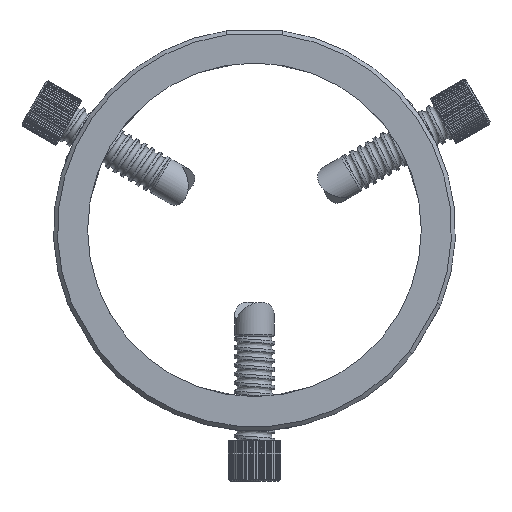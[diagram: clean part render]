
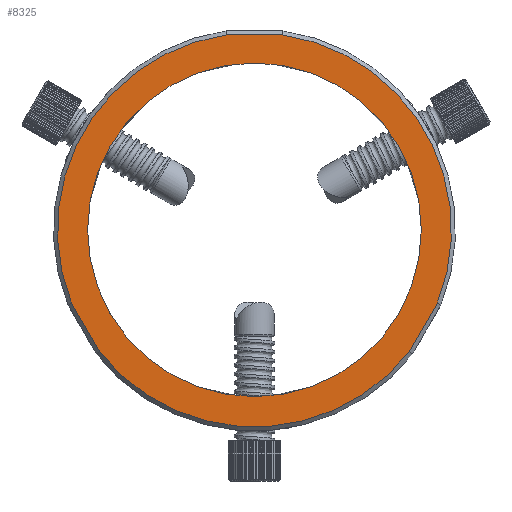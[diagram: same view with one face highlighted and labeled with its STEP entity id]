
A CAD part, front view. The second image highlights one B-rep face of the part: STEP entity #8325.
In plain terms, the highlighted planar face has unit normal (0, -1, 0).
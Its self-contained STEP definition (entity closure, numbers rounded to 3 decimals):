
#355 = EDGE_LOOP ( 'NONE', ( #4776, #4773, #4772, #4771, #4769, #4767 ) ) ;
#363 = EDGE_LOOP ( 'NONE', ( #4765 ) ) ;
#2256 = CIRCLE ( 'NONE', #38663, 49. ) ;
#2257 = CIRCLE ( 'NONE', #38662, 41.5 ) ;
#2258 = LINE ( 'NONE', #3894, #2260 ) ;
#2259 = CIRCLE ( 'NONE', #38664, 49. ) ;
#2260 = VECTOR ( 'NONE', #3902, 1000. ) ;
#2261 = LINE ( 'NONE', #3898, #2262 ) ;
#2262 = VECTOR ( 'NONE', #3897, 1000. ) ;
#2263 = LINE ( 'NONE', #3903, #2265 ) ;
#2264 = CIRCLE ( 'NONE', #38665, 49. ) ;
#2265 = VECTOR ( 'NONE', #3904, 1000. ) ;
#3894 = CARTESIAN_POINT ( 'NONE',  ( -62.852, -9.012, -23.75 ) ) ;
#3897 = DIRECTION ( 'NONE',  ( -1., 0., 0. ) ) ;
#3898 = CARTESIAN_POINT ( 'NONE',  ( -20.849, -9.012, 49. ) ) ;
#3899 = CARTESIAN_POINT ( 'NONE',  ( -20.849, -9.012, 0.5 ) ) ;
#3900 = DIRECTION ( 'NONE',  ( 0., 1., 0. ) ) ;
#3901 = DIRECTION ( 'NONE',  ( 0., 0., 1. ) ) ;
#3902 = DIRECTION ( 'NONE',  ( 0.5, 0., -0.866 ) ) ;
#3903 = CARTESIAN_POINT ( 'NONE',  ( 21.153, -9.012, -23.75 ) ) ;
#3904 = DIRECTION ( 'NONE',  ( 0.5, 0., 0.866 ) ) ;
#3905 = CARTESIAN_POINT ( 'NONE',  ( -20.849, -9.012, 0.5 ) ) ;
#3906 = DIRECTION ( 'NONE',  ( 0., -1., 0. ) ) ;
#3907 = DIRECTION ( 'NONE',  ( 0., 0., 1. ) ) ;
#3910 = CARTESIAN_POINT ( 'NONE',  ( -20.849, -9.012, 0.5 ) ) ;
#3911 = DIRECTION ( 'NONE',  ( 0., -1., 0. ) ) ;
#3912 = DIRECTION ( 'NONE',  ( 0., 0., 1. ) ) ;
#3915 = CARTESIAN_POINT ( 'NONE',  ( -20.849, -9.012, 0.5 ) ) ;
#3916 = DIRECTION ( 'NONE',  ( 0., -1., 0. ) ) ;
#3917 = DIRECTION ( 'NONE',  ( 0., 0., 1. ) ) ;
#4765 = ORIENTED_EDGE ( 'NONE', *, *, #22869, .T. ) ;
#4767 = ORIENTED_EDGE ( 'NONE', *, *, #22870, .T. ) ;
#4769 = ORIENTED_EDGE ( 'NONE', *, *, #22871, .T. ) ;
#4771 = ORIENTED_EDGE ( 'NONE', *, *, #22872, .T. ) ;
#4772 = ORIENTED_EDGE ( 'NONE', *, *, #22873, .T. ) ;
#4773 = ORIENTED_EDGE ( 'NONE', *, *, #22874, .T. ) ;
#4776 = ORIENTED_EDGE ( 'NONE', *, *, #22875, .T. ) ;
#8325 = ADVANCED_FACE ( 'NONE', ( #8677, #8684 ), #33677, .F. ) ;
#8677 = FACE_OUTER_BOUND ( 'NONE', #355, .T. ) ;
#8684 = FACE_BOUND ( 'NONE', #363, .T. ) ;
#22869 = EDGE_CURVE ( 'NONE', #30439, #30439, #2257, .T. ) ;
#22870 = EDGE_CURVE ( 'NONE', #36476, #36487, #2258, .T. ) ;
#22871 = EDGE_CURVE ( 'NONE', #36477, #36476, #2256, .T. ) ;
#22872 = EDGE_CURVE ( 'NONE', #36478, #36477, #2261, .T. ) ;
#22873 = EDGE_CURVE ( 'NONE', #36479, #36478, #2259, .T. ) ;
#22874 = EDGE_CURVE ( 'NONE', #36485, #36479, #2263, .T. ) ;
#22875 = EDGE_CURVE ( 'NONE', #36487, #36485, #2264, .T. ) ;
#30439 = VERTEX_POINT ( 'NONE', #32347 ) ;
#32218 = CARTESIAN_POINT ( 'NONE',  ( -66.343, -9.012, -17.703 ) ) ;
#32219 = CARTESIAN_POINT ( 'NONE',  ( -27.831, -9.012, 49. ) ) ;
#32220 = CARTESIAN_POINT ( 'NONE',  ( -13.867, -9.012, 49. ) ) ;
#32221 = CARTESIAN_POINT ( 'NONE',  ( 24.644, -9.012, -17.703 ) ) ;
#32227 = CARTESIAN_POINT ( 'NONE',  ( 17.662, -9.012, -29.797 ) ) ;
#32229 = CARTESIAN_POINT ( 'NONE',  ( -59.36, -9.012, -29.797 ) ) ;
#32347 = CARTESIAN_POINT ( 'NONE',  ( -20.849, -9.012, 42. ) ) ;
#33675 = CARTESIAN_POINT ( 'NONE',  ( -20.849, -9.012, 0.5 ) ) ;
#33677 = PLANE ( 'NONE',  #34495 ) ;
#33686 = DIRECTION ( 'NONE',  ( 0., 1., 0. ) ) ;
#33687 = DIRECTION ( 'NONE',  ( 0., 0., 1. ) ) ;
#34495 = AXIS2_PLACEMENT_3D ( 'NONE', #33675, #33686, #33687 ) ;
#36476 = VERTEX_POINT ( 'NONE', #32218 ) ;
#36477 = VERTEX_POINT ( 'NONE', #32219 ) ;
#36478 = VERTEX_POINT ( 'NONE', #32220 ) ;
#36479 = VERTEX_POINT ( 'NONE', #32221 ) ;
#36485 = VERTEX_POINT ( 'NONE', #32227 ) ;
#36487 = VERTEX_POINT ( 'NONE', #32229 ) ;
#38662 = AXIS2_PLACEMENT_3D ( 'NONE', #3899, #3900, #3901 ) ;
#38663 = AXIS2_PLACEMENT_3D ( 'NONE', #3905, #3906, #3907 ) ;
#38664 = AXIS2_PLACEMENT_3D ( 'NONE', #3910, #3911, #3912 ) ;
#38665 = AXIS2_PLACEMENT_3D ( 'NONE', #3915, #3916, #3917 ) ;
